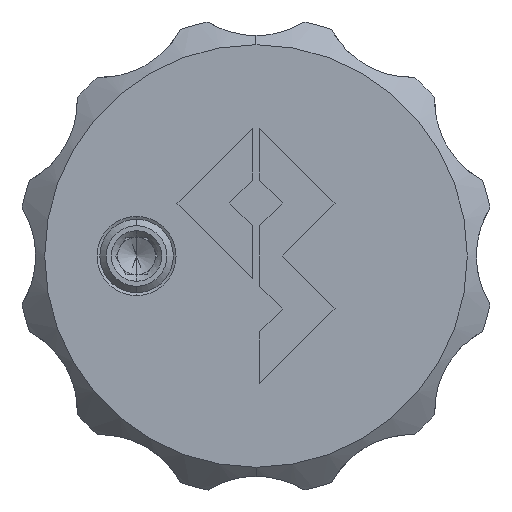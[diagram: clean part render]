
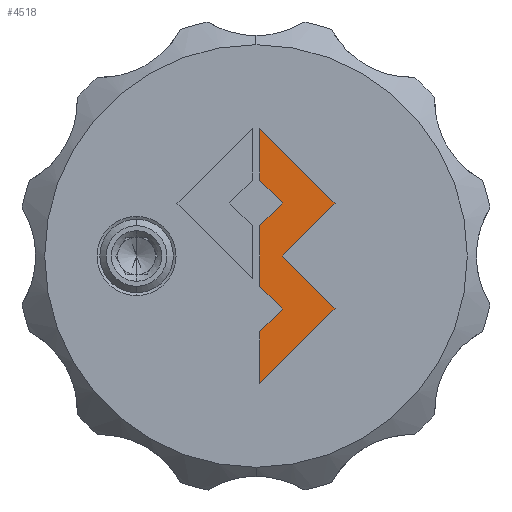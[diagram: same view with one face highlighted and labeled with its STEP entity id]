
A CAD part, left-side view. The second image highlights one B-rep face of the part: STEP entity #4518.
In plain terms, the highlighted planar face has unit normal (-1, 0, 0).
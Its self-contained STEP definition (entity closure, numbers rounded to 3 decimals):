
#208 = CARTESIAN_POINT ( 'NONE',  ( -22.7, -0.2, -1.643 ) ) ;
#306 = EDGE_CURVE ( 'NONE', #13771, #11392, #8658, .T. ) ;
#391 = DIRECTION ( 'NONE',  ( 0., -0.707, -0.707 ) ) ;
#567 = ORIENTED_EDGE ( 'NONE', *, *, #3790, .T. ) ;
#674 = LINE ( 'NONE', #877, #5989 ) ;
#877 = CARTESIAN_POINT ( 'NONE',  ( -22.7, -0.2, -4.129 ) ) ;
#986 = ORIENTED_EDGE ( 'NONE', *, *, #12313, .T. ) ;
#1052 = VECTOR ( 'NONE', #5942, 1000. ) ;
#1383 = VERTEX_POINT ( 'NONE', #7562 ) ;
#1568 = LINE ( 'NONE', #11063, #3733 ) ;
#1719 = LINE ( 'NONE', #10442, #1052 ) ;
#2000 = EDGE_CURVE ( 'NONE', #8160, #1383, #1568, .T. ) ;
#2279 = VERTEX_POINT ( 'NONE', #11897 ) ;
#2344 = LINE ( 'NONE', #12087, #5912 ) ;
#2458 = VERTEX_POINT ( 'NONE', #10458 ) ;
#2679 = CARTESIAN_POINT ( 'NONE',  ( -22.7, -1.443, 2.886 ) ) ;
#2691 = EDGE_CURVE ( 'NONE', #2458, #11452, #674, .T. ) ;
#2860 = CARTESIAN_POINT ( 'NONE',  ( -22.7, -0.2, 6.957 ) ) ;
#2895 = PLANE ( 'NONE',  #3356 ) ;
#2898 = VECTOR ( 'NONE', #3683, 1000. ) ;
#3056 = CARTESIAN_POINT ( 'NONE',  ( -22.7, -1.443, 0. ) ) ;
#3261 = CARTESIAN_POINT ( 'NONE',  ( -22.7, -0.2, -1.643 ) ) ;
#3289 = VECTOR ( 'NONE', #5552, 1000. ) ;
#3356 = AXIS2_PLACEMENT_3D ( 'NONE', #8222, #6123, #13840 ) ;
#3660 = VERTEX_POINT ( 'NONE', #208 ) ;
#3683 = DIRECTION ( 'NONE',  ( 0., 0.707, -0.707 ) ) ;
#3690 = ORIENTED_EDGE ( 'NONE', *, *, #2691, .T. ) ;
#3733 = VECTOR ( 'NONE', #13197, 1000. ) ;
#3790 = EDGE_CURVE ( 'NONE', #10107, #8160, #6809, .T. ) ;
#3815 = LINE ( 'NONE', #9346, #2898 ) ;
#3919 = LINE ( 'NONE', #2860, #12884 ) ;
#3988 = VERTEX_POINT ( 'NONE', #12108 ) ;
#4065 = CARTESIAN_POINT ( 'NONE',  ( -22.7, -4.3, 2.857 ) ) ;
#4518 = ADVANCED_FACE ( 'NONE', ( #7313 ), #2895, .F. ) ;
#5098 = ORIENTED_EDGE ( 'NONE', *, *, #8049, .T. ) ;
#5197 = DIRECTION ( 'NONE',  ( 0., -0.707, 0.707 ) ) ;
#5552 = DIRECTION ( 'NONE',  ( 0., 0.707, 0.707 ) ) ;
#5645 = CARTESIAN_POINT ( 'NONE',  ( -22.7, -0.2, 4.129 ) ) ;
#5912 = VECTOR ( 'NONE', #391, 1000. ) ;
#5942 = DIRECTION ( 'NONE',  ( 0., -0.707, 0.707 ) ) ;
#5989 = VECTOR ( 'NONE', #7191, 1000. ) ;
#6123 = DIRECTION ( 'NONE',  ( 1., 0., 0. ) ) ;
#6567 = ORIENTED_EDGE ( 'NONE', *, *, #9275, .T. ) ;
#6636 = EDGE_CURVE ( 'NONE', #11392, #8964, #7214, .T. ) ;
#6809 = LINE ( 'NONE', #2679, #7822 ) ;
#6828 = CARTESIAN_POINT ( 'NONE',  ( -22.7, -0.2, -6.957 ) ) ;
#6834 = LINE ( 'NONE', #5645, #7644 ) ;
#6924 = EDGE_CURVE ( 'NONE', #3660, #3988, #2344, .T. ) ;
#6946 = ORIENTED_EDGE ( 'NONE', *, *, #306, .T. ) ;
#7191 = DIRECTION ( 'NONE',  ( 0., 0., -1. ) ) ;
#7214 = LINE ( 'NONE', #4065, #8605 ) ;
#7313 = FACE_OUTER_BOUND ( 'NONE', #11833, .T. ) ;
#7459 = DIRECTION ( 'NONE',  ( 0., 0., -1. ) ) ;
#7562 = CARTESIAN_POINT ( 'NONE',  ( -22.7, -0.2, 1.643 ) ) ;
#7619 = EDGE_CURVE ( 'NONE', #8964, #2279, #3919, .T. ) ;
#7644 = VECTOR ( 'NONE', #10095, 1000. ) ;
#7822 = VECTOR ( 'NONE', #7942, 1000. ) ;
#7846 = CARTESIAN_POINT ( 'NONE',  ( -22.7, -0.2, 4.129 ) ) ;
#7942 = DIRECTION ( 'NONE',  ( 0., -0.707, -0.707 ) ) ;
#8049 = EDGE_CURVE ( 'NONE', #2279, #10107, #6834, .T. ) ;
#8160 = VERTEX_POINT ( 'NONE', #8365 ) ;
#8222 = CARTESIAN_POINT ( 'NONE',  ( -22.7, -0.2, -6.957 ) ) ;
#8365 = CARTESIAN_POINT ( 'NONE',  ( -22.7, -1.443, 2.886 ) ) ;
#8393 = DIRECTION ( 'NONE',  ( 0., 0.707, 0.707 ) ) ;
#8489 = ORIENTED_EDGE ( 'NONE', *, *, #2000, .T. ) ;
#8605 = VECTOR ( 'NONE', #5197, 1000. ) ;
#8613 = VECTOR ( 'NONE', #7459, 1000. ) ;
#8658 = LINE ( 'NONE', #8874, #3289 ) ;
#8874 = CARTESIAN_POINT ( 'NONE',  ( -22.7, -1.443, 0. ) ) ;
#8964 = VERTEX_POINT ( 'NONE', #13985 ) ;
#9230 = ORIENTED_EDGE ( 'NONE', *, *, #6636, .T. ) ;
#9275 = EDGE_CURVE ( 'NONE', #1383, #3660, #11789, .T. ) ;
#9296 = ORIENTED_EDGE ( 'NONE', *, *, #12821, .T. ) ;
#9346 = CARTESIAN_POINT ( 'NONE',  ( -22.7, -0.2, -4.129 ) ) ;
#10095 = DIRECTION ( 'NONE',  ( 0., 0., -1. ) ) ;
#10107 = VERTEX_POINT ( 'NONE', #7846 ) ;
#10442 = CARTESIAN_POINT ( 'NONE',  ( -22.7, -4.3, -2.857 ) ) ;
#10458 = CARTESIAN_POINT ( 'NONE',  ( -22.7, -0.2, -4.129 ) ) ;
#10841 = ORIENTED_EDGE ( 'NONE', *, *, #6924, .T. ) ;
#11063 = CARTESIAN_POINT ( 'NONE',  ( -22.7, -0.2, 1.643 ) ) ;
#11215 = ORIENTED_EDGE ( 'NONE', *, *, #7619, .T. ) ;
#11392 = VERTEX_POINT ( 'NONE', #3056 ) ;
#11452 = VERTEX_POINT ( 'NONE', #6828 ) ;
#11789 = LINE ( 'NONE', #3261, #8613 ) ;
#11833 = EDGE_LOOP ( 'NONE', ( #3690, #986, #6946, #9230, #11215, #5098, #567, #8489, #6567, #10841, #9296 ) ) ;
#11897 = CARTESIAN_POINT ( 'NONE',  ( -22.7, -0.2, 6.957 ) ) ;
#12087 = CARTESIAN_POINT ( 'NONE',  ( -22.7, -1.443, -2.886 ) ) ;
#12108 = CARTESIAN_POINT ( 'NONE',  ( -22.7, -1.443, -2.886 ) ) ;
#12313 = EDGE_CURVE ( 'NONE', #11452, #13771, #1719, .T. ) ;
#12821 = EDGE_CURVE ( 'NONE', #3988, #2458, #3815, .T. ) ;
#12884 = VECTOR ( 'NONE', #8393, 1000. ) ;
#13197 = DIRECTION ( 'NONE',  ( 0., 0.707, -0.707 ) ) ;
#13533 = CARTESIAN_POINT ( 'NONE',  ( -22.7, -4.3, -2.857 ) ) ;
#13771 = VERTEX_POINT ( 'NONE', #13533 ) ;
#13840 = DIRECTION ( 'NONE',  ( 0., 0., -1. ) ) ;
#13985 = CARTESIAN_POINT ( 'NONE',  ( -22.7, -4.3, 2.857 ) ) ;
